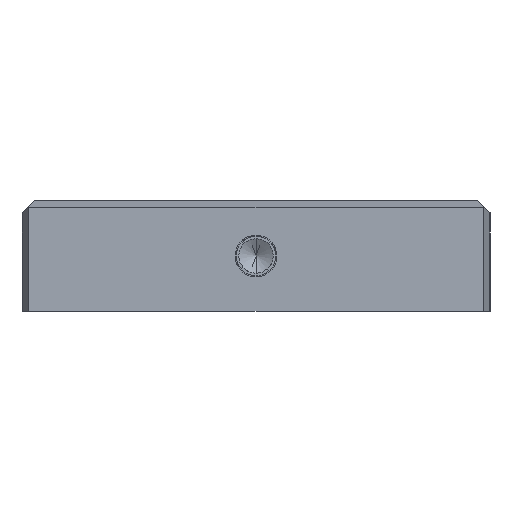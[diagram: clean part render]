
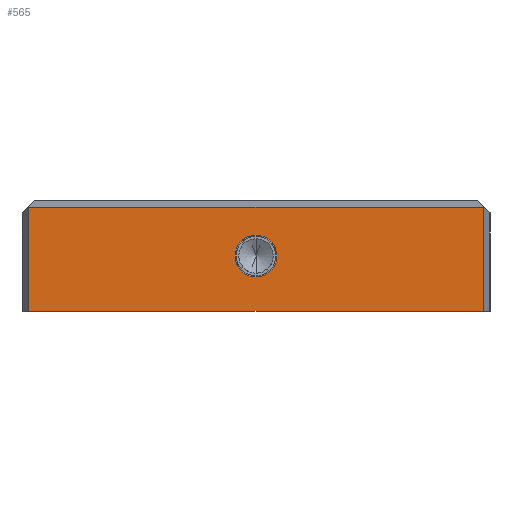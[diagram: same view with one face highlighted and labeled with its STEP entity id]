
A CAD part, front view. The second image highlights one B-rep face of the part: STEP entity #565.
In plain terms, the highlighted planar face has unit normal (0, -1, 0).
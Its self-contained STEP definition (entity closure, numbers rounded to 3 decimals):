
#457=CARTESIAN_POINT('Vertex',(0.,0.,-31.)) ;
#461=CARTESIAN_POINT('Control Point',(8.5,0.,-22.5)) ;
#462=CARTESIAN_POINT('Control Point',(8.5,0.,-25.17)) ;
#463=CARTESIAN_POINT('Control Point',(7.454,0.,-27.843)) ;
#464=CARTESIAN_POINT('Control Point',(5.343,0.,-29.954)) ;
#465=CARTESIAN_POINT('Control Point',(2.67,0.,-31.)) ;
#466=CARTESIAN_POINT('Control Point',(0.,0.,-31.)) ;
#467=CARTESIAN_POINT('Vertex',(8.5,0.,-22.5)) ;
#470=CARTESIAN_POINT('Axis2P3D Location',(0.,0.,-22.5)) ;
#474=CARTESIAN_POINT('Vertex',(0.,0.,-14.)) ;
#496=CARTESIAN_POINT('Axis2P3D Location',(0.,0.,-22.5)) ;
#500=CARTESIAN_POINT('Vertex',(-8.5,0.,-22.5)) ;
#504=CARTESIAN_POINT('Control Point',(0.,0.,-31.)) ;
#505=CARTESIAN_POINT('Control Point',(-2.67,0.,-31.)) ;
#506=CARTESIAN_POINT('Control Point',(-5.343,0.,-29.954)) ;
#507=CARTESIAN_POINT('Control Point',(-7.454,0.,-27.843)) ;
#508=CARTESIAN_POINT('Control Point',(-8.5,0.,-25.17)) ;
#509=CARTESIAN_POINT('Control Point',(-8.5,0.,-22.5)) ;
#520=CARTESIAN_POINT('Axis2P3D Location',(-92.321,0.,-45.)) ;
#525=CARTESIAN_POINT('Line Origine',(92.321,0.,-23.84)) ;
#529=CARTESIAN_POINT('Vertex',(92.321,0.,-45.)) ;
#531=CARTESIAN_POINT('Vertex',(92.321,0.,-2.679)) ;
#534=CARTESIAN_POINT('Line Origine',(0.,0.,-2.679)) ;
#538=CARTESIAN_POINT('Vertex',(-92.321,0.,-2.679)) ;
#541=CARTESIAN_POINT('Line Origine',(-92.321,0.,-23.84)) ;
#545=CARTESIAN_POINT('Vertex',(-92.321,0.,-45.)) ;
#548=CARTESIAN_POINT('Line Origine',(0.,0.,-45.)) ;
#471=DIRECTION('Axis2P3D Direction',(0.,-1.,0.)) ;
#497=DIRECTION('Axis2P3D Direction',(0.,-1.,0.)) ;
#521=DIRECTION('Axis2P3D Direction',(0.,-1.,0.)) ;
#522=DIRECTION('Axis2P3D XDirection',(0.,0.,-1.)) ;
#526=DIRECTION('Vector Direction',(0.,0.,1.)) ;
#535=DIRECTION('Vector Direction',(-1.,0.,0.)) ;
#542=DIRECTION('Vector Direction',(0.,0.,1.)) ;
#549=DIRECTION('Vector Direction',(1.,0.,0.)) ;
#472=AXIS2_PLACEMENT_3D('Circle Axis2P3D',#470,#471,$) ;
#498=AXIS2_PLACEMENT_3D('Circle Axis2P3D',#496,#497,$) ;
#523=AXIS2_PLACEMENT_3D('Plane Axis2P3D',#520,#521,#522) ;
#554=ORIENTED_EDGE('',*,*,#533,.T.) ;
#555=ORIENTED_EDGE('',*,*,#540,.T.) ;
#556=ORIENTED_EDGE('',*,*,#547,.F.) ;
#557=ORIENTED_EDGE('',*,*,#552,.T.) ;
#560=ORIENTED_EDGE('',*,*,#469,.T.) ;
#561=ORIENTED_EDGE('',*,*,#510,.T.) ;
#562=ORIENTED_EDGE('',*,*,#502,.T.) ;
#563=ORIENTED_EDGE('',*,*,#476,.T.) ;
#564=FACE_BOUND('',#559,.T.) ;
#527=VECTOR('Line Direction',#526,1.) ;
#536=VECTOR('Line Direction',#535,1.) ;
#543=VECTOR('Line Direction',#542,1.) ;
#550=VECTOR('Line Direction',#549,1.) ;
#565=ADVANCED_FACE('A927-190X400X45',(#558,#564),#524,.T.) ;
#460=B_SPLINE_CURVE_WITH_KNOTS('',5,(#461,#462,#463,#464,#465,#466),.UNSPECIFIED.,.F.,.U.,(6,6),(-6.676,6.676),.UNSPECIFIED.) ;
#503=B_SPLINE_CURVE_WITH_KNOTS('',5,(#504,#505,#506,#507,#508,#509),.UNSPECIFIED.,.F.,.U.,(6,6),(-6.676,6.676),.UNSPECIFIED.) ;
#473=CIRCLE('generated circle',#472,8.5) ;
#499=CIRCLE('generated circle',#498,8.5) ;
#469=EDGE_CURVE('',#468,#458,#460,.T.) ;
#476=EDGE_CURVE('',#475,#468,#473,.F.) ;
#502=EDGE_CURVE('',#501,#475,#499,.F.) ;
#510=EDGE_CURVE('',#458,#501,#503,.T.) ;
#533=EDGE_CURVE('',#530,#532,#528,.T.) ;
#540=EDGE_CURVE('',#532,#539,#537,.T.) ;
#547=EDGE_CURVE('',#546,#539,#544,.T.) ;
#552=EDGE_CURVE('',#546,#530,#551,.T.) ;
#553=EDGE_LOOP('',(#554,#555,#556,#557)) ;
#559=EDGE_LOOP('',(#560,#561,#562,#563)) ;
#558=FACE_OUTER_BOUND('',#553,.T.) ;
#528=LINE('Line',#525,#527) ;
#537=LINE('Line',#534,#536) ;
#544=LINE('Line',#541,#543) ;
#551=LINE('Line',#548,#550) ;
#524=PLANE('Plane',#523) ;
#458=VERTEX_POINT('',#457) ;
#468=VERTEX_POINT('',#467) ;
#475=VERTEX_POINT('',#474) ;
#501=VERTEX_POINT('',#500) ;
#530=VERTEX_POINT('',#529) ;
#532=VERTEX_POINT('',#531) ;
#539=VERTEX_POINT('',#538) ;
#546=VERTEX_POINT('',#545) ;
